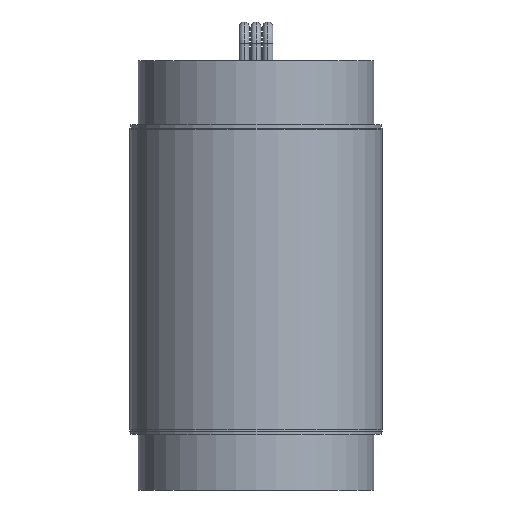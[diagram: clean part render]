
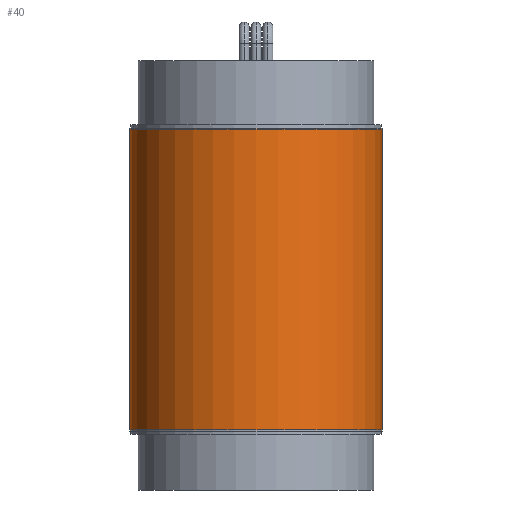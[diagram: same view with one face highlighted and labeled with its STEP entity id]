
A CAD part, front view. The second image highlights one B-rep face of the part: STEP entity #40.
In plain terms, the highlighted cylindrical face has radius 19.05 mm (diameter 38.1 mm), a partial arc.
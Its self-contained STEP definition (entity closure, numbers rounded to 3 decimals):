
#40 = ADVANCED_FACE ( 'NONE', ( #1368 ), #67, .T. ) ;
#67 = CYLINDRICAL_SURFACE ( 'NONE', #1944, 19.05 ) ;
#175 = LINE ( 'NONE', #1085, #1506 ) ;
#205 = DIRECTION ( 'NONE',  ( 1., 0., 0. ) ) ;
#257 = CARTESIAN_POINT ( 'NONE',  ( -19.05, 0., 22.657 ) ) ;
#436 = DIRECTION ( 'NONE',  ( 0., 0., 1. ) ) ;
#452 = CARTESIAN_POINT ( 'NONE',  ( 0., 0., -23.368 ) ) ;
#503 = CARTESIAN_POINT ( 'NONE',  ( -19.05, 0., -22.657 ) ) ;
#603 = DIRECTION ( 'NONE',  ( 1., 0., 0. ) ) ;
#669 = CARTESIAN_POINT ( 'NONE',  ( 19.05, 0., -22.657 ) ) ;
#706 = CARTESIAN_POINT ( 'NONE',  ( -19.05, 0., -23.368 ) ) ;
#738 = AXIS2_PLACEMENT_3D ( 'NONE', #759, #436, #603 ) ;
#759 = CARTESIAN_POINT ( 'NONE',  ( 0., 0., 22.657 ) ) ;
#760 = ORIENTED_EDGE ( 'NONE', *, *, #1678, .T. ) ;
#802 = CIRCLE ( 'NONE', #1763, 19.05 ) ;
#930 = VERTEX_POINT ( 'NONE', #503 ) ;
#957 = VERTEX_POINT ( 'NONE', #669 ) ;
#1058 = EDGE_CURVE ( 'NONE', #930, #1851, #1924, .T. ) ;
#1085 = CARTESIAN_POINT ( 'NONE',  ( 19.05, 0., -23.368 ) ) ;
#1116 = ORIENTED_EDGE ( 'NONE', *, *, #1307, .T. ) ;
#1272 = DIRECTION ( 'NONE',  ( 0., 0., 1. ) ) ;
#1307 = EDGE_CURVE ( 'NONE', #930, #957, #802, .T. ) ;
#1345 = ORIENTED_EDGE ( 'NONE', *, *, #2277, .F. ) ;
#1368 = FACE_OUTER_BOUND ( 'NONE', #1693, .T. ) ;
#1506 = VECTOR ( 'NONE', #1272, 1000. ) ;
#1553 = CIRCLE ( 'NONE', #738, 19.05 ) ;
#1654 = CARTESIAN_POINT ( 'NONE',  ( 19.05, 0., 22.657 ) ) ;
#1678 = EDGE_CURVE ( 'NONE', #957, #2251, #175, .T. ) ;
#1693 = EDGE_LOOP ( 'NONE', ( #2079, #1116, #760, #1345 ) ) ;
#1763 = AXIS2_PLACEMENT_3D ( 'NONE', #2190, #2174, #205 ) ;
#1829 = VECTOR ( 'NONE', #1895, 1000. ) ;
#1851 = VERTEX_POINT ( 'NONE', #257 ) ;
#1895 = DIRECTION ( 'NONE',  ( 0., 0., 1. ) ) ;
#1924 = LINE ( 'NONE', #706, #1829 ) ;
#1944 = AXIS2_PLACEMENT_3D ( 'NONE', #452, #2061, #2305 ) ;
#2061 = DIRECTION ( 'NONE',  ( 0., 0., 1. ) ) ;
#2079 = ORIENTED_EDGE ( 'NONE', *, *, #1058, .F. ) ;
#2174 = DIRECTION ( 'NONE',  ( 0., 0., 1. ) ) ;
#2190 = CARTESIAN_POINT ( 'NONE',  ( 0., 0., -22.657 ) ) ;
#2251 = VERTEX_POINT ( 'NONE', #1654 ) ;
#2277 = EDGE_CURVE ( 'NONE', #1851, #2251, #1553, .T. ) ;
#2305 = DIRECTION ( 'NONE',  ( 1., 0., 0. ) ) ;
